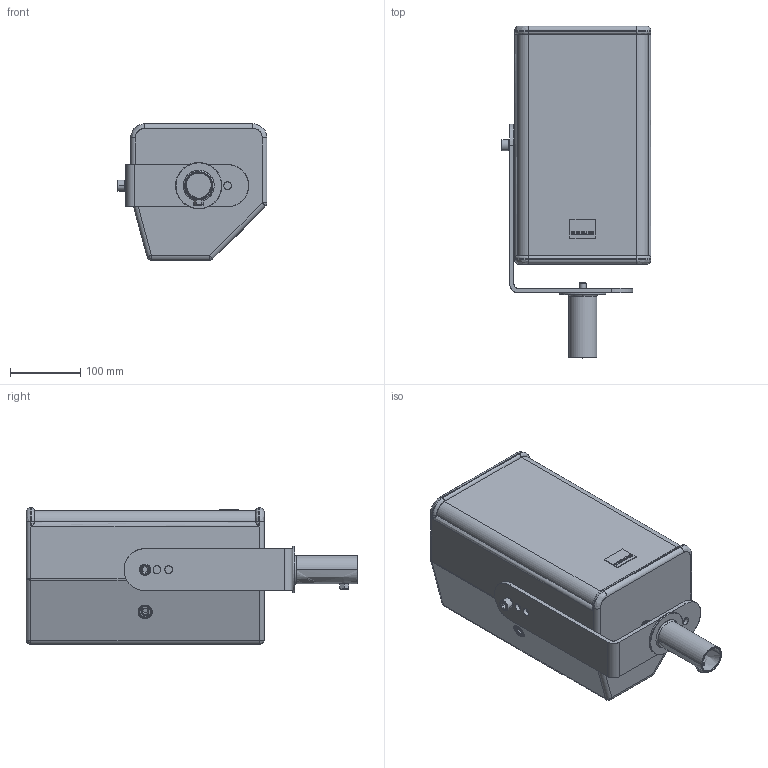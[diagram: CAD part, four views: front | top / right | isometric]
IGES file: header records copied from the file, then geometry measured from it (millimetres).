
Start section: SolidWorks IGES file using analytic representation for surfaces
Global section: file name: C:\Dokumente und Einstellungen\PC_Fabian\Desktop\TS-Serie\Seeburg_TSNano_J-Bracket_ver.IGS; native system: SolidWorks 2009; preprocessor: SolidWorks 2009; author: PC_Fabian; date: 121017.142316; units: millimetre
Bounding box: 213.3 x 472.5 x 194 mm (x, y, z)
Surface area: 742940.2 mm2 (no closed solid volume)
Topology: 0 solids, 0 shells, 469 faces, 5758 edges, 5756 vertices
Faces by surface type: revolution 277, bspline 192
